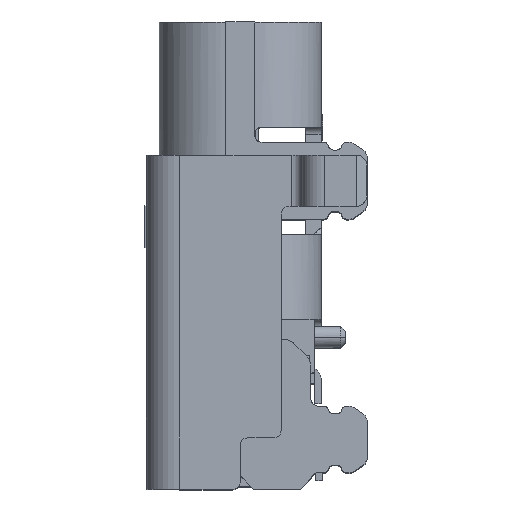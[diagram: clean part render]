
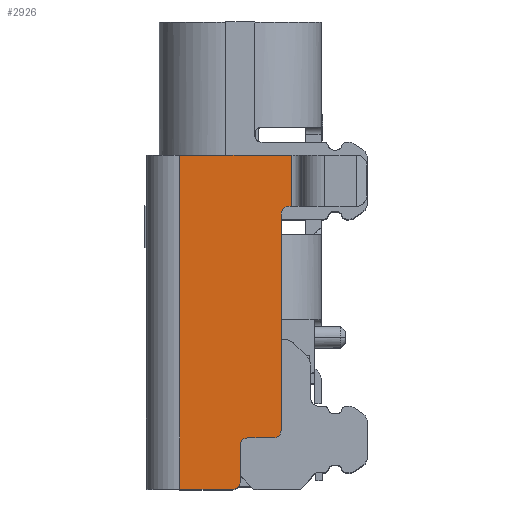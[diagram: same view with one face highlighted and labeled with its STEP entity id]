
A CAD part, top view. The second image highlights one B-rep face of the part: STEP entity #2926.
In plain terms, the highlighted planar face has unit normal (0, 0, 1) as drawn and (1, 0, 0) by its records, which use the part's own axes.
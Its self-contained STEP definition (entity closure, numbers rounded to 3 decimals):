
#713=CARTESIAN_POINT('',(4.74,-0.65,0.0));
#714=VERTEX_POINT('',#713);
#722=CARTESIAN_POINT('',(4.74,-2.83,0.0));
#723=VERTEX_POINT('',#722);
#724=CARTESIAN_POINT('',(4.74,-0.65,0.0));
#725=DIRECTION('',(0.0,1.0,0.0));
#726=VECTOR('',#725,1.0);
#727=LINE('',#724,#726);
#728=EDGE_CURVE('no 31054',#723,#714,#727,.T.);
#2729=CARTESIAN_POINT('',(4.74,-1.68,6.52));
#2730=VERTEX_POINT('',#2729);
#2737=CARTESIAN_POINT('',(4.74,-0.65,6.52));
#2738=VERTEX_POINT('',#2737);
#2739=CARTESIAN_POINT('',(4.74,-0.65,6.52));
#2740=DIRECTION('',(0.0,1.0,0.0));
#2741=VECTOR('',#2740,1.0);
#2742=LINE('',#2739,#2741);
#2743=EDGE_CURVE('no 22551',#2730,#2738,#2742,.T.);
#2765=CARTESIAN_POINT('',(4.74,-0.65,6.52));
#2766=DIRECTION('',(0.0,0.0,-1.0));
#2767=VECTOR('',#2766,1.0);
#2768=LINE('',#2765,#2767);
#2769=EDGE_CURVE('no 35235',#2738,#714,#2768,.T.);
#2842=CARTESIAN_POINT('',(4.74,-2.63,1.15));
#2843=VERTEX_POINT('',#2842);
#2844=CARTESIAN_POINT('',(4.74,-2.78,1.0));
#2845=VERTEX_POINT('',#2844);
#2846=CARTESIAN_POINT('',(4.74,-2.78,1.15));
#2847=DIRECTION('',(-1.0,0.0,0.0));
#2848=DIRECTION('',(0.0,0.0,1.0));
#2849=AXIS2_PLACEMENT_3D('',#2846,#2847,#2848);
#2850=CIRCLE('',#2849,0.15);
#2851=EDGE_CURVE('no 38079',#2843,#2845,#2850,.T.);
#2852=ORIENTED_EDGE('no 22281',*,*,#2851,.T.);
#2853=CARTESIAN_POINT('',(4.74,-2.83,1.0));
#2854=VERTEX_POINT('',#2853);
#2855=CARTESIAN_POINT('',(4.74,-0.65,1.0));
#2856=DIRECTION('',(0.0,-1.0,0.0));
#2857=VECTOR('',#2856,1.0);
#2858=LINE('',#2855,#2857);
#2859=EDGE_CURVE('no 55042',#2845,#2854,#2858,.T.);
#2860=ORIENTED_EDGE('no 4446',*,*,#2859,.T.);
#2861=CARTESIAN_POINT('',(4.74,-2.83,6.52));
#2862=DIRECTION('',(0.0,0.0,-1.0));
#2863=VECTOR('',#2862,1.0);
#2864=LINE('',#2861,#2863);
#2865=EDGE_CURVE('no 32247',#2854,#723,#2864,.T.);
#2866=ORIENTED_EDGE('no 59214',*,*,#2865,.T.);
#2867=ORIENTED_EDGE('no 40147',*,*,#728,.T.);
#2868=ORIENTED_EDGE('no 2146',*,*,#2769,.F.);
#2869=ORIENTED_EDGE('no 52419',*,*,#2743,.F.);
#2870=CARTESIAN_POINT('',(4.74,-1.83,6.37));
#2871=VERTEX_POINT('',#2870);
#2872=CARTESIAN_POINT('',(4.74,-1.68,6.37));
#2873=DIRECTION('',(1.0,0.0,-0.0));
#2874=DIRECTION('',(0.0,0.0,1.0));
#2875=AXIS2_PLACEMENT_3D('',#2872,#2873,#2874);
#2876=CIRCLE('',#2875,0.15);
#2877=EDGE_CURVE('no 26700',#2730,#2871,#2876,.T.);
#2878=ORIENTED_EDGE('no 21756',*,*,#2877,.T.);
#2879=CARTESIAN_POINT('',(4.74,-1.83,5.67));
#2880=VERTEX_POINT('',#2879);
#2881=CARTESIAN_POINT('',(4.74,-1.83,6.52));
#2882=DIRECTION('',(0.0,0.0,-1.0));
#2883=VECTOR('',#2882,1.0);
#2884=LINE('',#2881,#2883);
#2885=EDGE_CURVE('no 989',#2871,#2880,#2884,.T.);
#2886=ORIENTED_EDGE('no 1501',*,*,#2885,.T.);
#2887=CARTESIAN_POINT('',(4.74,-1.98,5.52));
#2888=VERTEX_POINT('',#2887);
#2889=CARTESIAN_POINT('',(4.74,-1.98,5.67));
#2890=DIRECTION('',(-1.0,0.0,0.0));
#2891=DIRECTION('',(0.0,0.0,1.0));
#2892=AXIS2_PLACEMENT_3D('',#2889,#2890,#2891);
#2893=CIRCLE('',#2892,0.15);
#2894=EDGE_CURVE('no 37741',#2880,#2888,#2893,.T.);
#2895=ORIENTED_EDGE('no 23656',*,*,#2894,.T.);
#2896=CARTESIAN_POINT('',(4.74,-2.48,5.52));
#2897=VERTEX_POINT('',#2896);
#2898=CARTESIAN_POINT('',(4.74,-0.65,5.52));
#2899=DIRECTION('',(0.0,-1.0,0.0));
#2900=VECTOR('',#2899,1.0);
#2901=LINE('',#2898,#2900);
#2902=EDGE_CURVE('no 30311',#2888,#2897,#2901,.T.);
#2903=ORIENTED_EDGE('no 35891',*,*,#2902,.T.);
#2904=CARTESIAN_POINT('',(4.74,-2.63,5.37));
#2905=VERTEX_POINT('',#2904);
#2906=CARTESIAN_POINT('',(4.74,-2.48,5.37));
#2907=DIRECTION('',(1.0,0.0,-0.0));
#2908=DIRECTION('',(0.0,0.0,1.0));
#2909=AXIS2_PLACEMENT_3D('',#2906,#2907,#2908);
#2910=CIRCLE('',#2909,0.15);
#2911=EDGE_CURVE('no 47022',#2897,#2905,#2910,.T.);
#2912=ORIENTED_EDGE('no 21959',*,*,#2911,.T.);
#2913=CARTESIAN_POINT('',(4.74,-2.63,6.52));
#2914=DIRECTION('',(0.0,-0.0,-1.0));
#2915=VECTOR('',#2914,1.0);
#2916=LINE('',#2913,#2915);
#2917=EDGE_CURVE('no 23239',#2905,#2843,#2916,.T.);
#2918=ORIENTED_EDGE('no 44740',*,*,#2917,.T.);
#2919=EDGE_LOOP('',(
    #2852,#2860,#2866,#2867,#2868,#2869,#2878,#2886,#2895,#2903,
    #2912,#2918));
#2920=FACE_OUTER_BOUND('',#2919,.T.);
#2921=CARTESIAN_POINT('',(4.74,-0.65,6.52));
#2922=DIRECTION('',(-1.0,0.0,0.0));
#2923=DIRECTION('',(0.0,0.0,1.0));
#2924=AXIS2_PLACEMENT_3D('',#2921,#2922,#2923);
#2925=PLANE('',#2924);
#2926=ADVANCED_FACE('no 5154',(#2920),#2925,.F.);
